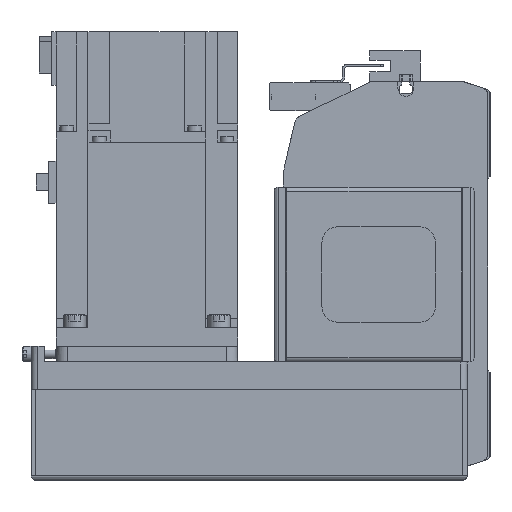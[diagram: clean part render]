
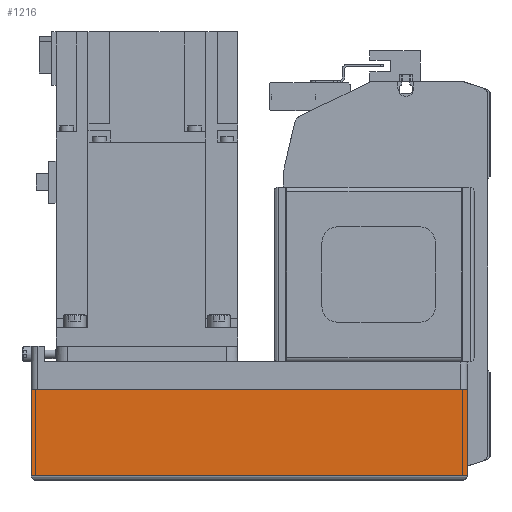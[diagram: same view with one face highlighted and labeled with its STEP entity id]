
A CAD part, left-side view. The second image highlights one B-rep face of the part: STEP entity #1216.
In plain terms, the highlighted planar face has unit normal (-1, 0, 0) as drawn and (0, -1, 0) by its records, which use the part's own axes.
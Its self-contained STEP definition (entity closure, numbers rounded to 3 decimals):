
#1216 = ADVANCED_FACE( '', ( #3321 ), #3322, .T. );
#3321 = FACE_OUTER_BOUND( '', #6629, .T. );
#3322 = PLANE( '', #6630 );
#6629 = EDGE_LOOP( '', ( #10095, #10096, #10097, #10098 ) );
#6630 = AXIS2_PLACEMENT_3D( '', #10099, #10100, #10101 );
#10095 = ORIENTED_EDGE( '', *, *, #19012, .F. );
#10096 = ORIENTED_EDGE( '', *, *, #19013, .F. );
#10097 = ORIENTED_EDGE( '', *, *, #19014, .T. );
#10098 = ORIENTED_EDGE( '', *, *, #19015, .T. );
#10099 = CARTESIAN_POINT( '', ( -192., -40., -12.1 ) );
#10100 = DIRECTION( '', ( 0., -1., 0. ) );
#10101 = DIRECTION( '', ( 0., 0., -1. ) );
#19012 = EDGE_CURVE( '', #22651, #22399, #22652, .T. );
#19013 = EDGE_CURVE( '', #22653, #22651, #22654, .T. );
#19014 = EDGE_CURVE( '', #22653, #22655, #22656, .T. );
#19015 = EDGE_CURVE( '', #22655, #22399, #22657, .T. );
#22399 = VERTEX_POINT( '', #27662 );
#22651 = VERTEX_POINT( '', #28013 );
#22652 = LINE( '', #28014, #28015 );
#22653 = VERTEX_POINT( '', #28016 );
#22654 = LINE( '', #28017, #28018 );
#22655 = VERTEX_POINT( '', #28019 );
#22656 = LINE( '', #28020, #28021 );
#22657 = LINE( '', #28022, #28023 );
#27662 = CARTESIAN_POINT( '', ( 0., -40., -50. ) );
#28013 = CARTESIAN_POINT( '', ( 0., -40., -12.1 ) );
#28014 = CARTESIAN_POINT( '', ( 0., -40., -12.1 ) );
#28015 = VECTOR( '', #35431, 1000. );
#28016 = CARTESIAN_POINT( '', ( -192., -40., -12.1 ) );
#28017 = CARTESIAN_POINT( '', ( -192., -40., -12.1 ) );
#28018 = VECTOR( '', #35432, 1000. );
#28019 = CARTESIAN_POINT( '', ( -192., -40., -50. ) );
#28020 = CARTESIAN_POINT( '', ( -192., -40., -12.1 ) );
#28021 = VECTOR( '', #35433, 1000. );
#28022 = CARTESIAN_POINT( '', ( -192., -40., -50. ) );
#28023 = VECTOR( '', #35434, 1000. );
#35431 = DIRECTION( '', ( 0., 0., -1. ) );
#35432 = DIRECTION( '', ( 1., 0., 0. ) );
#35433 = DIRECTION( '', ( 0., 0., -1. ) );
#35434 = DIRECTION( '', ( 1., 0., 0. ) );
